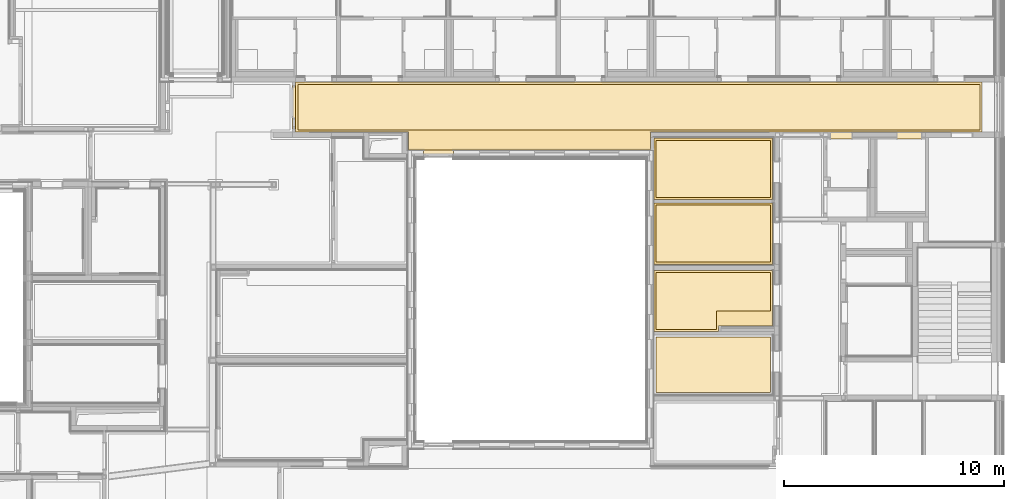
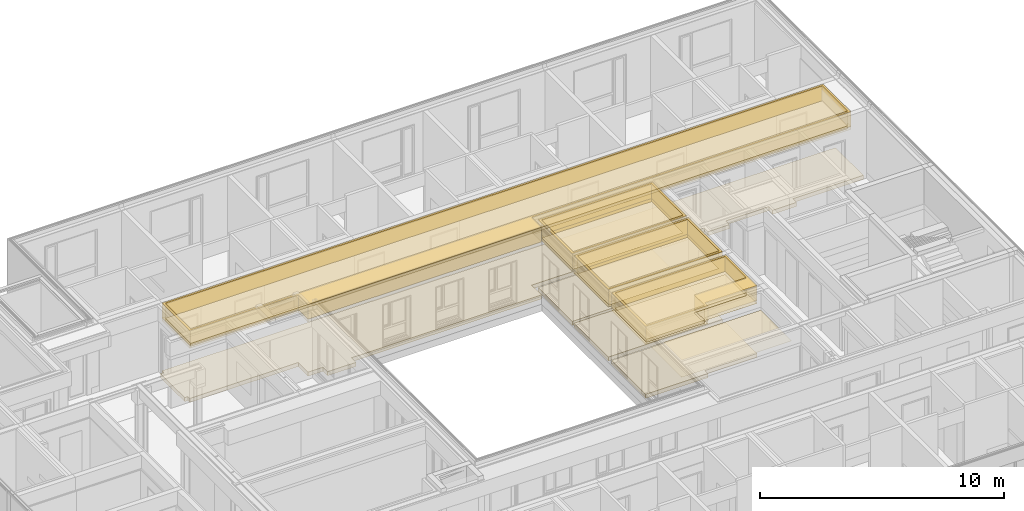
# One storey, part 184 of 207: 36 coverings.
"""IFC4 building model written with IfcOpenShell, lengths in metres."""

from ifc_helpers import new_model, entity, si_unit, converted_unit, derived_unit, frame, frame_2d, origin, origin_with_axes, place, context, subcontext, project, spatial, polyline, rectangle, outline, extrude, material, layer, layer_set, layer_usage, element, save


model = new_model("IFC4")

# Units and contexts
model_context = context("Model", 3, precision=1e-05, world=origin())
body_context = subcontext(model_context, "Body", "Model", "MODEL_VIEW")
ifc_project = project(units=[si_unit("LENGTHUNIT", "METRE"), si_unit("AREAUNIT", "SQUARE_METRE"), si_unit("VOLUMEUNIT", "CUBIC_METRE"), si_unit("MASSUNIT", "GRAM", prefix="KILO"), converted_unit("PLANEANGLEUNIT", "DEGREE", entity("IfcPlaneAngleMeasure", 0.0174532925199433), si_unit("PLANEANGLEUNIT", "RADIAN"), dimensions=[0, 0, 0, 0, 0, 0, 0]), derived_unit("THERMALTRANSMITTANCEUNIT", [(si_unit("POWERUNIT", "WATT"), 1), (si_unit("THERMODYNAMICTEMPERATUREUNIT", "KELVIN"), -1), (si_unit("LENGTHUNIT", "METRE"), -2)]), derived_unit("VOLUMETRICFLOWRATEUNIT", [(si_unit("LENGTHUNIT", "METRE"), 3), (converted_unit("TIMEUNIT", "hour", entity("IfcTimeMeasure", 3600.0), si_unit("TIMEUNIT", "SECOND"), dimensions=[0, 0, 1, 0, 0, 0, 0]), -1), (si_unit("LENGTHUNIT", "METRE"), -1)])], contexts=[model_context])

# Site, building, storey, space
site_placement = place(None, origin())
site = spatial("IfcSite", under=ifc_project, at=site_placement, Name="Psychiatrie Neubau Wunstorf", CompositionType="ELEMENT")
building_placement = place(site_placement, origin())
building = spatial("IfcBuilding", under=site, at=building_placement, Name="Neubau H2 Stationsgebäude", CompositionType="ELEMENT")
storey_placement = place(building_placement, frame((0.0, 0.0, -0.2)))
storey = spatial("IfcBuildingStorey", under=building, at=storey_placement, Name="H2 Ebene 0", CompositionType="ELEMENT", Elevation=-0.2)
space_1_placement = place(storey_placement, frame((74.055, 22.036, 0.0)))
space_1 = spatial("IfcSpace", under=storey, at=space_1_placement, Name="WUN-H2-E00-F09", CompositionType="ELEMENT")

# Coverings
ifc_material_1 = material(Name="Ku1")
ifc_layer_1 = layer(ifc_material_1, 0.2)
ifc_layer_set_1 = layer_set([ifc_layer_1])
ifc_layer_usage_1 = layer_usage(ifc_layer_set_1, "AXIS3", "POSITIVE", 0.0)
covering_1_placement = place(space_1_placement, frame((-0.154999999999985, -0.372000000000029, 0.0)))
element("IfcCovering", 1, at=covering_1_placement, inside=space_1, material=ifc_layer_usage_1, Name="PVC Bahnenware Holzoptik", PredefinedType="FLOORING", context=body_context, shape_type="SweptSolid", body=[
    extrude(rectangle(XDim=0.372000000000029, YDim=1.35, at=frame_2d((0.675, -0.186000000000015), x_axis=(0.0, -1.0))), frame((5.98099999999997, 0.372000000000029, 0.0), z_axis=(0.0, 0.0, 1.0), x_axis=(1.0, 0.0, 0.0)), (0.0, 0.0, 1.0), 0.2),
    extrude(rectangle(XDim=0.155, YDim=1.9715, at=frame_2d((0.0775, 0.98575), x_axis=(1.0, 0.0))), frame((0.0, 1.32700000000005, 0.0), z_axis=(0.0, 0.0, 1.0), x_axis=(1.0, 0.0, 0.0)), (0.0, 0.0, 1.0), 0.2),
    extrude(rectangle(XDim=0.306999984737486, YDim=1.01, at=frame_2d((0.505, -0.153499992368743), x_axis=(0.0, -1.0))), frame((24.4750062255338, 1.172, 0.0), z_axis=(0.0, 0.0, 1.0), x_axis=(1.0, 0.0, 0.0)), (0.0, 0.0, 1.0), 0.2),
    extrude(rectangle(XDim=0.306999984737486, YDim=1.135, at=frame_2d((0.5675, -0.153499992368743), x_axis=(0.0, -1.0))), frame((27.514993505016, 1.172, 0.0), z_axis=(0.0, 0.0, 1.0), x_axis=(1.0, 0.0, 0.0)), (0.0, 0.0, 1.0), 0.2),
    extrude(rectangle(XDim=0.155, YDim=1.6825, at=frame_2d((-0.84125, 0.0775), x_axis=(0.0, 1.0))), frame((24.01999991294, 1.017, 0.0), z_axis=(0.0, 0.0, 1.0), x_axis=(1.0, 0.0, 0.0)), (0.0, 0.0, 1.0), 0.2),
    extrude(outline(polyline([(5.1249996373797, 0.800000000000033), (5.1249996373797, 0.0), (16.156, 0.0), (16.156, 0.799999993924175), (31.834, 0.799999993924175), (31.834, 3.08150000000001), (0.0, 3.08150000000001), (0.0, 0.800000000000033), (5.1249996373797, 0.800000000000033)])), frame((0.154999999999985, 0.372000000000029, 0.0), z_axis=(0.0, 0.0, 1.0), x_axis=(1.0, 0.0, 0.0)), (0.0, 0.0, 1.0), 0.2),
])
ifc_material_2 = material()
ifc_layer_2 = layer(ifc_material_2, 0.036)
ifc_layer_set_2 = layer_set([ifc_layer_2])
ifc_layer_usage_2 = layer_usage(ifc_layer_set_2, "AXIS3", "POSITIVE", 0.0)
covering_2_placement = place(space_1_placement, frame((0.100000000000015, 0.899999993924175, 3.6)))
element("IfcCovering", 2, at=covering_2_placement, inside=space_1, material=ifc_layer_usage_2, Name="Gipsfaserplatten 2-lagig (BSK)", PredefinedType="CEILING", context=body_context, shape_type="SweptSolid", body=[
    extrude(rectangle(XDim=2.08150000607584, YDim=31.045, at=frame_2d((-15.5225, 1.04074999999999), x_axis=(0.0, 1.0))), frame((31.045, 2.08150000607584, 0.0), z_axis=(0.0, 0.0, -1.0), x_axis=(1.0, 0.0, 0.0)), (0.0, 0.0, 1.0), 0.036),
])
ifc_material_3 = material(Name="Installationshöhe")
ifc_layer_3 = layer(ifc_material_3, 0.714)
ifc_layer_set_3 = layer_set([ifc_layer_3])
ifc_layer_usage_3 = layer_usage(ifc_layer_set_3, "AXIS3", "POSITIVE", 0.0)
covering_3_placement = place(space_1_placement, frame((0.100000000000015, 0.899999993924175, 3.564)))
element("IfcCovering", 3, at=covering_3_placement, inside=space_1, material=ifc_layer_usage_3, Name="Gipsfaserplatten 2-lagig (BSK)", PredefinedType="CEILING", context=body_context, shape_type="SweptSolid", body=[
    extrude(rectangle(XDim=2.08150000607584, YDim=31.045, at=frame_2d((-15.5225, 1.04074999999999), x_axis=(0.0, 1.0))), frame((31.045, 2.08150000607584, 0.0), z_axis=(0.0, 0.0, -1.0), x_axis=(1.0, 0.0, 0.0)), (0.0, 0.0, 1.0), 0.714),
])
ifc_material_4 = material(Name="Aa")
ifc_layer_4 = layer(ifc_material_4, 0.15)
ifc_layer_set_4 = layer_set([ifc_layer_4])
ifc_layer_usage_4 = layer_usage(ifc_layer_set_4, "AXIS3", "POSITIVE", 0.0)
covering_4_placement = place(space_1_placement, frame((0.100000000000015, 0.899999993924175, 2.85)))
element("IfcCovering", 4, at=covering_4_placement, inside=space_1, material=ifc_layer_usage_4, Name="Gipsfaserplatten 2-lagig (BSK)", PredefinedType="CEILING", context=body_context, shape_type="SweptSolid", body=[
    extrude(rectangle(XDim=2.08150000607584, YDim=31.045, at=frame_2d((-15.5225, 1.04074999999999), x_axis=(0.0, 1.0))), frame((31.045, 2.08150000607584, 0.0), z_axis=(0.0, 0.0, -1.0), x_axis=(1.0, 0.0, 0.0)), (0.0, 0.0, 1.0), 0.15),
])
ifc_material_5 = material(Name="D1")
ifc_layer_5 = layer(ifc_material_5, 0.001)
ifc_layer_set_5 = layer_set([ifc_layer_5])
ifc_layer_usage_5 = layer_usage(ifc_layer_set_5, "AXIS3", "POSITIVE", 0.0)
covering_5_placement = place(space_1_placement, frame((0.100000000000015, 0.899999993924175, 2.7)))
element("IfcCovering", 5, at=covering_5_placement, inside=space_1, material=ifc_layer_usage_5, Name="Gipsfaserplatten 2-lagig (BSK)", PredefinedType="CEILING", context=body_context, shape_type="SweptSolid", body=[
    extrude(rectangle(XDim=2.08150000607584, YDim=31.045, at=frame_2d((-15.5225, 1.04074999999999), x_axis=(0.0, 1.0))), frame((31.045, 2.08150000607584, 0.0), z_axis=(0.0, 0.0, -1.0), x_axis=(1.0, 0.0, 0.0)), (0.0, 0.0, 1.0), 0.001),
])
ifc_material_6 = material()
ifc_layer_6 = layer(ifc_material_6, 0.036)
ifc_layer_set_6 = layer_set([ifc_layer_6])
ifc_layer_usage_6 = layer_usage(ifc_layer_set_6, "AXIS3", "POSITIVE", 0.0)
covering_6_placement = place(space_1_placement, frame((0.0, 0.0, 3.6)))
element("IfcCovering", 6, at=covering_6_placement, inside=space_1, material=ifc_layer_usage_6, Name="Gipsfaserplatten 2-lagig (BSK)", PredefinedType="CEILING", context=body_context, shape_type="SweptSolid", body=[
    extrude(outline(polyline([(31.245, 2.28150000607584), (16.156, 2.28150000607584), (16.156, 3.08150000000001), (5.1249996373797, 3.08150000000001), (5.1249996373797, 2.28150000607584), (0.0, 2.28150000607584), (0.0, 0.0), (31.245, 0.0), (31.245, 2.28150000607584)]), holes=[polyline([(0.1, 0.1), (0.1, 2.18150000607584), (31.145, 2.18150000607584), (31.145, 0.1), (0.1, 0.1)])]), frame((0.0, 3.08150000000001, 0.0), z_axis=(0.0, 0.0, -1.0), x_axis=(1.0, 0.0, 0.0)), (0.0, 0.0, 1.0), 0.036),
])
ifc_material_7 = material(Name="Installationshöhe")
ifc_layer_7 = layer(ifc_material_7, 0.714)
ifc_layer_set_7 = layer_set([ifc_layer_7])
ifc_layer_usage_7 = layer_usage(ifc_layer_set_7, "AXIS3", "POSITIVE", 0.0)
covering_7_placement = place(space_1_placement, frame((0.0, 0.0, 3.564)))
element("IfcCovering", 7, at=covering_7_placement, inside=space_1, material=ifc_layer_usage_7, Name="Gipsfaserplatten 2-lagig (BSK)", PredefinedType="CEILING", context=body_context, shape_type="SweptSolid", body=[
    extrude(outline(polyline([(31.245, 2.28150000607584), (16.156, 2.28150000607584), (16.156, 3.08150000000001), (5.1249996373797, 3.08150000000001), (5.1249996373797, 2.28150000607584), (0.0, 2.28150000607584), (0.0, 0.0), (31.245, 0.0), (31.245, 2.28150000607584)]), holes=[polyline([(0.1, 0.1), (0.1, 2.18150000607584), (31.145, 2.18150000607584), (31.145, 0.1), (0.1, 0.1)])]), frame((0.0, 3.08150000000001, 0.0), z_axis=(0.0, 0.0, -1.0), x_axis=(1.0, 0.0, 0.0)), (0.0, 0.0, 1.0), 0.714),
])
ifc_material_8 = material(Name="A1")
ifc_layer_8 = layer(ifc_material_8, 0.15)
ifc_layer_set_8 = layer_set([ifc_layer_8])
ifc_layer_usage_8 = layer_usage(ifc_layer_set_8, "AXIS3", "POSITIVE", 0.0)
covering_8_placement = place(space_1_placement, frame((0.0, 0.0, 2.85)))
element("IfcCovering", 8, at=covering_8_placement, inside=space_1, material=ifc_layer_usage_8, Name="Gipsfaserplatten 2-lagig (BSK)", PredefinedType="CEILING", context=body_context, shape_type="SweptSolid", body=[
    extrude(outline(polyline([(31.245, 2.28150000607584), (16.156, 2.28150000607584), (16.156, 3.08150000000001), (5.1249996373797, 3.08150000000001), (5.1249996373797, 2.28150000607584), (0.0, 2.28150000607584), (0.0, 0.0), (31.245, 0.0), (31.245, 2.28150000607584)]), holes=[polyline([(0.1, 0.1), (0.1, 2.18150000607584), (31.145, 2.18150000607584), (31.145, 0.1), (0.1, 0.1)])]), frame((0.0, 3.08150000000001, 0.0), z_axis=(0.0, 0.0, -1.0), x_axis=(1.0, 0.0, 0.0)), (0.0, 0.0, 1.0), 0.15),
])
ifc_material_9 = material(Name="D1")
ifc_layer_9 = layer(ifc_material_9, 0.001)
ifc_layer_set_9 = layer_set([ifc_layer_9])
ifc_layer_usage_9 = layer_usage(ifc_layer_set_9, "AXIS3", "POSITIVE", 0.0)
covering_9_placement = place(space_1_placement, frame((0.0, 0.0, 2.7)))
element("IfcCovering", 9, at=covering_9_placement, inside=space_1, material=ifc_layer_usage_9, Name="Gipsfaserplatten 2-lagig (BSK)", PredefinedType="CEILING", context=body_context, shape_type="SweptSolid", body=[
    extrude(outline(polyline([(31.245, 2.28150000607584), (16.156, 2.28150000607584), (16.156, 3.08150000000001), (5.1249996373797, 3.08150000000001), (5.1249996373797, 2.28150000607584), (0.0, 2.28150000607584), (0.0, 0.0), (31.245, 0.0), (31.245, 2.28150000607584)]), holes=[polyline([(0.1, 0.1), (0.1, 2.18150000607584), (31.145, 2.18150000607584), (31.145, 0.1), (0.1, 0.1)])]), frame((0.0, 3.08150000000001, 0.0), z_axis=(0.0, 0.0, -1.0), x_axis=(1.0, 0.0, 0.0)), (0.0, 0.0, 1.0), 0.001),
])

# Space
space_2_placement = place(storey_placement, frame((90.3575, 19.768, 0.0)))
space_2 = spatial("IfcSpace", under=storey, at=space_2_placement, Name="WUN-H2-E00-086", CompositionType="ELEMENT")

# Coverings
ifc_material_10 = material(Name="Ku1")
ifc_layer_10 = layer(ifc_material_10, 0.2)
ifc_layer_set_10 = layer_set([ifc_layer_10])
ifc_layer_usage_10 = layer_usage(ifc_layer_set_10, "AXIS3", "POSITIVE", 0.0)
covering_10_placement = place(space_2_placement, origin())
element("IfcCovering", 10, at=covering_10_placement, inside=space_2, material=ifc_layer_usage_10, Name="PVC Bahnenware Holzoptik", PredefinedType="FLOORING", context=body_context, shape_type="SweptSolid", body=[
    extrude(outline(polyline([(5.4035, 0.0), (5.4035, 2.79600000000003), (0.0, 2.79600000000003), (0.0, 2.26800000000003), (0.0035, 2.26800000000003), (0.0035, 0.0), (5.4035, 0.0)])), origin_with_axes(), (0.0, 0.0, 1.0), 0.2),
])
ifc_material_11 = material()
ifc_layer_11 = layer(ifc_material_11, 0.036)
ifc_layer_set_11 = layer_set([ifc_layer_11])
ifc_layer_usage_11 = layer_usage(ifc_layer_set_11, "AXIS3", "POSITIVE", 0.0)
covering_11_placement = place(space_2_placement, frame((0.103499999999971, 0.100000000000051, 3.6)))
element("IfcCovering", 11, at=covering_11_placement, inside=space_2, material=ifc_layer_usage_11, Name="Gipsfaserplatten 2-lagig (BSK)", PredefinedType="CEILING", context=body_context, shape_type="SweptSolid", body=[
    extrude(rectangle(XDim=5.19999997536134, YDim=2.59599999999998, at=frame_2d((-2.59999998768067, -1.29800000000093), x_axis=(-1.0, -3.61699048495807e-13))), frame((5.19999997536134, 0.0, 0.0), z_axis=(0.0, 0.0, -1.0), x_axis=(1.0, 0.0, 0.0)), (0.0, 0.0, 1.0), 0.036),
])
ifc_material_12 = material(Name="Installationshöhe")
ifc_layer_12 = layer(ifc_material_12, 0.714)
ifc_layer_set_12 = layer_set([ifc_layer_12])
ifc_layer_usage_12 = layer_usage(ifc_layer_set_12, "AXIS3", "POSITIVE", 0.0)
covering_12_placement = place(space_2_placement, frame((0.103499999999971, 0.100000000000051, 3.564)))
element("IfcCovering", 12, at=covering_12_placement, inside=space_2, material=ifc_layer_usage_12, Name="Gipsfaserplatten 2-lagig (BSK)", PredefinedType="CEILING", context=body_context, shape_type="SweptSolid", body=[
    extrude(rectangle(XDim=5.19999997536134, YDim=2.59599999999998, at=frame_2d((-2.59999998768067, -1.29800000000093), x_axis=(-1.0, -3.61699048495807e-13))), frame((5.19999997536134, 0.0, 0.0), z_axis=(0.0, 0.0, -1.0), x_axis=(1.0, 0.0, 0.0)), (0.0, 0.0, 1.0), 0.714),
])
ifc_material_13 = material(Name="Aa")
ifc_layer_13 = layer(ifc_material_13, 0.15)
ifc_layer_set_13 = layer_set([ifc_layer_13])
ifc_layer_usage_13 = layer_usage(ifc_layer_set_13, "AXIS3", "POSITIVE", 0.0)
covering_13_placement = place(space_2_placement, frame((0.103499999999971, 0.100000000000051, 2.85)))
element("IfcCovering", 13, at=covering_13_placement, inside=space_2, material=ifc_layer_usage_13, Name="Gipsfaserplatten 2-lagig (BSK)", PredefinedType="CEILING", context=body_context, shape_type="SweptSolid", body=[
    extrude(rectangle(XDim=5.19999997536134, YDim=2.59599999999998, at=frame_2d((-2.59999998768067, -1.29800000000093), x_axis=(-1.0, -3.61699048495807e-13))), frame((5.19999997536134, 0.0, 0.0), z_axis=(0.0, 0.0, -1.0), x_axis=(1.0, 0.0, 0.0)), (0.0, 0.0, 1.0), 0.15),
])
ifc_material_14 = material(Name="D1")
ifc_layer_14 = layer(ifc_material_14, 0.001)
ifc_layer_set_14 = layer_set([ifc_layer_14])
ifc_layer_usage_14 = layer_usage(ifc_layer_set_14, "AXIS3", "POSITIVE", 0.0)
covering_14_placement = place(space_2_placement, frame((0.103499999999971, 0.100000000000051, 2.7)))
element("IfcCovering", 14, at=covering_14_placement, inside=space_2, material=ifc_layer_usage_14, Name="Gipsfaserplatten 2-lagig (BSK)", PredefinedType="CEILING", context=body_context, shape_type="SweptSolid", body=[
    extrude(rectangle(XDim=5.19999997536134, YDim=2.59599999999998, at=frame_2d((-2.59999998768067, -1.29800000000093), x_axis=(-1.0, -3.61699048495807e-13))), frame((5.19999997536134, 0.0, 0.0), z_axis=(0.0, 0.0, -1.0), x_axis=(1.0, 0.0, 0.0)), (0.0, 0.0, 1.0), 0.001),
])
ifc_material_15 = material()
ifc_layer_15 = layer(ifc_material_15, 0.036)
ifc_layer_set_15 = layer_set([ifc_layer_15])
ifc_layer_usage_15 = layer_usage(ifc_layer_set_15, "AXIS3", "POSITIVE", 0.0)
covering_15_placement = place(space_2_placement, frame((0.0035, 0.0, 3.6)))
element("IfcCovering", 15, at=covering_15_placement, inside=space_2, material=ifc_layer_usage_15, Name="Gipsfaserplatten 2-lagig (BSK)", PredefinedType="CEILING", context=body_context, shape_type="SweptSolid", body=[
    extrude(outline(polyline([(0.0, 0.0), (5.4, 0.0), (5.4, 2.79600000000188), (0.0, 2.79600000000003), (0.0, 0.0)]), holes=[polyline([(0.0999999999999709, 2.69599999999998), (5.29999997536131, 2.69600000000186), (5.29999997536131, 0.100000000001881), (0.0999999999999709, 0.1), (0.0999999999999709, 2.69599999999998)])]), frame((0.0, 2.79600000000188, 0.0), z_axis=(0.0, 0.0, -1.0), x_axis=(1.0, 0.0, 0.0)), (0.0, 0.0, 1.0), 0.036),
])
ifc_material_16 = material(Name="Installationshöhe")
ifc_layer_16 = layer(ifc_material_16, 0.714)
ifc_layer_set_16 = layer_set([ifc_layer_16])
ifc_layer_usage_16 = layer_usage(ifc_layer_set_16, "AXIS3", "POSITIVE", 0.0)
covering_16_placement = place(space_2_placement, frame((0.0035, 0.0, 3.564)))
element("IfcCovering", 16, at=covering_16_placement, inside=space_2, material=ifc_layer_usage_16, Name="Gipsfaserplatten 2-lagig (BSK)", PredefinedType="CEILING", context=body_context, shape_type="SweptSolid", body=[
    extrude(outline(polyline([(0.0, 0.0), (5.4, 0.0), (5.4, 2.79600000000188), (0.0, 2.79600000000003), (0.0, 0.0)]), holes=[polyline([(0.0999999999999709, 2.69599999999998), (5.29999997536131, 2.69600000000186), (5.29999997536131, 0.100000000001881), (0.0999999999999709, 0.1), (0.0999999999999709, 2.69599999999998)])]), frame((0.0, 2.79600000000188, 0.0), z_axis=(0.0, 0.0, -1.0), x_axis=(1.0, 0.0, 0.0)), (0.0, 0.0, 1.0), 0.714),
])
ifc_material_17 = material(Name="A1")
ifc_layer_17 = layer(ifc_material_17, 0.15)
ifc_layer_set_17 = layer_set([ifc_layer_17])
ifc_layer_usage_17 = layer_usage(ifc_layer_set_17, "AXIS3", "POSITIVE", 0.0)
covering_17_placement = place(space_2_placement, frame((0.0035, 0.0, 2.85)))
element("IfcCovering", 17, at=covering_17_placement, inside=space_2, material=ifc_layer_usage_17, Name="Gipsfaserplatten 2-lagig (BSK)", PredefinedType="CEILING", context=body_context, shape_type="SweptSolid", body=[
    extrude(outline(polyline([(0.0, 0.0), (5.4, 0.0), (5.4, 2.79600000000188), (0.0, 2.79600000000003), (0.0, 0.0)]), holes=[polyline([(0.0999999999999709, 2.69599999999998), (5.29999997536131, 2.69600000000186), (5.29999997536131, 0.100000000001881), (0.0999999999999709, 0.1), (0.0999999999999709, 2.69599999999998)])]), frame((0.0, 2.79600000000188, 0.0), z_axis=(0.0, 0.0, -1.0), x_axis=(1.0, 0.0, 0.0)), (0.0, 0.0, 1.0), 0.15),
])

# Space
space_3_placement = place(storey_placement, frame((90.361, 16.8255, 0.0)))
space_3 = spatial("IfcSpace", under=storey, at=space_3_placement, Name="WUN-H2-E00-085", CompositionType="ELEMENT")

# Coverings
ifc_material_18 = material(Name="Ku1")
ifc_layer_18 = layer(ifc_material_18, 0.2)
ifc_layer_set_18 = layer_set([ifc_layer_18])
ifc_layer_usage_18 = layer_usage(ifc_layer_set_18, "AXIS3", "POSITIVE", 0.0)
covering_18_placement = place(space_3_placement, origin())
element("IfcCovering", 18, at=covering_18_placement, inside=space_3, material=ifc_layer_usage_18, Name="PVC Bahnenware Holzoptik", PredefinedType="FLOORING", context=body_context, shape_type="SweptSolid", body=[
    extrude(rectangle(XDim=5.4, YDim=2.79249999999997, at=frame_2d((-2.7, -1.39625), x_axis=(-1.0, -5.38959823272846e-15))), frame((5.4, 2.7925, 0.0), z_axis=(0.0, 0.0, 1.0), x_axis=(1.0, 0.0, 0.0)), (0.0, 0.0, 1.0), 0.2),
])
ifc_material_19 = material()
ifc_layer_19 = layer(ifc_material_19, 0.036)
ifc_layer_set_19 = layer_set([ifc_layer_19])
ifc_layer_usage_19 = layer_usage(ifc_layer_set_19, "AXIS3", "POSITIVE", 0.0)
covering_19_placement = place(space_3_placement, frame((0.0999999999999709, 0.100000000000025, 3.6)))
element("IfcCovering", 19, at=covering_19_placement, inside=space_3, material=ifc_layer_usage_19, Name="Gipsfaserplatten 2-lagig (BSK)", PredefinedType="CEILING", context=body_context, shape_type="SweptSolid", body=[
    extrude(rectangle(XDim=2.5925, YDim=5.19999997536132, at=frame_2d((2.59999998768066, -1.29624999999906), x_axis=(0.0, -1.0))), frame((0.0, 0.0, 0.0), z_axis=(0.0, 0.0, -1.0), x_axis=(1.0, 0.0, 0.0)), (0.0, 0.0, 1.0), 0.036),
])
ifc_material_20 = material(Name="Installationshöhe")
ifc_layer_20 = layer(ifc_material_20, 0.714)
ifc_layer_set_20 = layer_set([ifc_layer_20])
ifc_layer_usage_20 = layer_usage(ifc_layer_set_20, "AXIS3", "POSITIVE", 0.0)
covering_20_placement = place(space_3_placement, frame((0.0999999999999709, 0.100000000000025, 3.564)))
element("IfcCovering", 20, at=covering_20_placement, inside=space_3, material=ifc_layer_usage_20, Name="Gipsfaserplatten 2-lagig (BSK)", PredefinedType="CEILING", context=body_context, shape_type="SweptSolid", body=[
    extrude(rectangle(XDim=2.5925, YDim=5.19999997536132, at=frame_2d((2.59999998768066, -1.29624999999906), x_axis=(0.0, -1.0))), frame((0.0, 0.0, 0.0), z_axis=(0.0, 0.0, -1.0), x_axis=(1.0, 0.0, 0.0)), (0.0, 0.0, 1.0), 0.714),
])
ifc_material_21 = material(Name="Aa")
ifc_layer_21 = layer(ifc_material_21, 0.15)
ifc_layer_set_21 = layer_set([ifc_layer_21])
ifc_layer_usage_21 = layer_usage(ifc_layer_set_21, "AXIS3", "POSITIVE", 0.0)
covering_21_placement = place(space_3_placement, frame((0.0999999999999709, 0.100000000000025, 2.85)))
element("IfcCovering", 21, at=covering_21_placement, inside=space_3, material=ifc_layer_usage_21, Name="Gipsfaserplatten 2-lagig (BSK)", PredefinedType="CEILING", context=body_context, shape_type="SweptSolid", body=[
    extrude(rectangle(XDim=2.5925, YDim=5.19999997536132, at=frame_2d((2.59999998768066, -1.29624999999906), x_axis=(0.0, -1.0))), frame((0.0, 0.0, 0.0), z_axis=(0.0, 0.0, -1.0), x_axis=(1.0, 0.0, 0.0)), (0.0, 0.0, 1.0), 0.15),
])
ifc_material_22 = material(Name="D1")
ifc_layer_22 = layer(ifc_material_22, 0.001)
ifc_layer_set_22 = layer_set([ifc_layer_22])
ifc_layer_usage_22 = layer_usage(ifc_layer_set_22, "AXIS3", "POSITIVE", 0.0)
covering_22_placement = place(space_3_placement, frame((0.0999999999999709, 0.100000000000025, 2.7)))
element("IfcCovering", 22, at=covering_22_placement, inside=space_3, material=ifc_layer_usage_22, Name="Gipsfaserplatten 2-lagig (BSK)", PredefinedType="CEILING", context=body_context, shape_type="SweptSolid", body=[
    extrude(rectangle(XDim=2.5925, YDim=5.19999997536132, at=frame_2d((2.59999998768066, -1.29624999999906), x_axis=(0.0, -1.0))), frame((0.0, 0.0, 0.0), z_axis=(0.0, 0.0, -1.0), x_axis=(1.0, 0.0, 0.0)), (0.0, 0.0, 1.0), 0.001),
])
ifc_material_23 = material()
ifc_layer_23 = layer(ifc_material_23, 0.036)
ifc_layer_set_23 = layer_set([ifc_layer_23])
ifc_layer_usage_23 = layer_usage(ifc_layer_set_23, "AXIS3", "POSITIVE", 0.0)
covering_23_placement = place(space_3_placement, frame((0.0, 0.0, 3.6)))
element("IfcCovering", 23, at=covering_23_placement, inside=space_3, material=ifc_layer_usage_23, Name="Gipsfaserplatten 2-lagig (BSK)", PredefinedType="CEILING", context=body_context, shape_type="SweptSolid", body=[
    extrude(outline(polyline([(5.4, 2.79250000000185), (0.0, 2.79249999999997), (0.0, 0.0), (5.4, 0.0), (5.4, 2.79250000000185)]), holes=[polyline([(0.0999999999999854, 0.0999999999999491), (0.0999999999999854, 2.69249999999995), (5.29999997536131, 2.69250000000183), (5.29999997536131, 0.10000000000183), (0.0999999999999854, 0.0999999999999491)])]), frame((0.0, 2.79250000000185, 0.0), z_axis=(0.0, 0.0, -1.0), x_axis=(1.0, 0.0, 0.0)), (0.0, 0.0, 1.0), 0.036),
])
ifc_material_24 = material(Name="Installationshöhe")
ifc_layer_24 = layer(ifc_material_24, 0.714)
ifc_layer_set_24 = layer_set([ifc_layer_24])
ifc_layer_usage_24 = layer_usage(ifc_layer_set_24, "AXIS3", "POSITIVE", 0.0)
covering_24_placement = place(space_3_placement, frame((0.0, 0.0, 3.564)))
element("IfcCovering", 24, at=covering_24_placement, inside=space_3, material=ifc_layer_usage_24, Name="Gipsfaserplatten 2-lagig (BSK)", PredefinedType="CEILING", context=body_context, shape_type="SweptSolid", body=[
    extrude(outline(polyline([(5.4, 2.79250000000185), (0.0, 2.79249999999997), (0.0, 0.0), (5.4, 0.0), (5.4, 2.79250000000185)]), holes=[polyline([(0.0999999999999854, 0.0999999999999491), (0.0999999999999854, 2.69249999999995), (5.29999997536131, 2.69250000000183), (5.29999997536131, 0.10000000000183), (0.0999999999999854, 0.0999999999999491)])]), frame((0.0, 2.79250000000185, 0.0), z_axis=(0.0, 0.0, -1.0), x_axis=(1.0, 0.0, 0.0)), (0.0, 0.0, 1.0), 0.714),
])
ifc_material_25 = material(Name="A1")
ifc_layer_25 = layer(ifc_material_25, 0.15)
ifc_layer_set_25 = layer_set([ifc_layer_25])
ifc_layer_usage_25 = layer_usage(ifc_layer_set_25, "AXIS3", "POSITIVE", 0.0)
covering_25_placement = place(space_3_placement, frame((0.0, 0.0, 2.85)))
element("IfcCovering", 25, at=covering_25_placement, inside=space_3, material=ifc_layer_usage_25, Name="Gipsfaserplatten 2-lagig (BSK)", PredefinedType="CEILING", context=body_context, shape_type="SweptSolid", body=[
    extrude(outline(polyline([(5.4, 2.79250000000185), (0.0, 2.79249999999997), (0.0, 0.0), (5.4, 0.0), (5.4, 2.79250000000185)]), holes=[polyline([(0.0999999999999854, 0.0999999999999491), (0.0999999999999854, 2.69249999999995), (5.29999997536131, 2.69250000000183), (5.29999997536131, 0.10000000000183), (0.0999999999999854, 0.0999999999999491)])]), frame((0.0, 2.79250000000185, 0.0), z_axis=(0.0, 0.0, -1.0), x_axis=(1.0, 0.0, 0.0)), (0.0, 0.0, 1.0), 0.15),
])
ifc_material_26 = material(Name="D1")
ifc_layer_26 = layer(ifc_material_26, 0.001)
ifc_layer_set_26 = layer_set([ifc_layer_26])
ifc_layer_usage_26 = layer_usage(ifc_layer_set_26, "AXIS3", "POSITIVE", 0.0)
covering_26_placement = place(space_3_placement, frame((0.0, 0.0, 2.7)))
element("IfcCovering", 26, at=covering_26_placement, inside=space_3, material=ifc_layer_usage_26, Name="Gipsfaserplatten 2-lagig (BSK)", PredefinedType="CEILING", context=body_context, shape_type="SweptSolid", body=[
    extrude(outline(polyline([(5.4, 2.79250000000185), (0.0, 2.79249999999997), (0.0, 0.0), (5.4, 0.0), (5.4, 2.79250000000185)]), holes=[polyline([(0.0999999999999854, 0.0999999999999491), (0.0999999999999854, 2.69249999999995), (5.29999997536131, 2.69250000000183), (5.29999997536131, 0.10000000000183), (0.0999999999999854, 0.0999999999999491)])]), frame((0.0, 2.79250000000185, 0.0), z_axis=(0.0, 0.0, -1.0), x_axis=(1.0, 0.0, 0.0)), (0.0, 0.0, 1.0), 0.001),
])

# Space
space_4_placement = place(storey_placement, frame((90.361, 13.7609999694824, 0.0)))
space_4 = spatial("IfcSpace", under=storey, at=space_4_placement, Name="WUN-H2-E00-084", CompositionType="ELEMENT")

# Coverings
ifc_material_27 = material(Name="Ku1")
ifc_layer_27 = layer(ifc_material_27, 0.2)
ifc_layer_set_27 = layer_set([ifc_layer_27])
ifc_layer_usage_27 = layer_usage(ifc_layer_set_27, "AXIS3", "POSITIVE", 0.0)
covering_27_placement = place(space_4_placement, origin())
element("IfcCovering", 27, at=covering_27_placement, inside=space_4, material=ifc_layer_usage_27, Name="PVC Bahnenware Holzoptik", PredefinedType="FLOORING", context=body_context, shape_type="SweptSolid", body=[
    extrude(outline(polyline([(5.4, 0.249999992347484), (5.4, 2.79250003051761), (0.0, 2.79250003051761), (0.0, 0.0), (2.94249990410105, 0.0), (2.94249990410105, 0.249999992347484), (5.4, 0.249999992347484)])), origin_with_axes(), (0.0, 0.0, 1.0), 0.2),
])
ifc_material_28 = material()
ifc_layer_28 = layer(ifc_material_28, 0.036)
ifc_layer_set_28 = layer_set([ifc_layer_28])
ifc_layer_usage_28 = layer_usage(ifc_layer_set_28, "AXIS3", "POSITIVE", 0.0)
covering_28_placement = place(space_4_placement, frame((0.0999999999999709, 0.100000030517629, 3.6)))
element("IfcCovering", 28, at=covering_28_placement, inside=space_4, material=ifc_layer_usage_28, Name="Gipsfaserplatten 2-lagig (BSK)", PredefinedType="CEILING", context=body_context, shape_type="SweptSolid", body=[
    extrude(outline(polyline([(0.0, 2.5925), (0.0, 0.0), (5.19999997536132, 0.0), (5.19999997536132, 1.74250026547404), (2.74249990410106, 1.74250026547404), (2.74249990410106, 2.59250003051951), (0.0, 2.5925)])), frame((0.0, 2.59250003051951, 0.0), z_axis=(0.0, 0.0, -1.0), x_axis=(1.0, 0.0, 0.0)), (0.0, 0.0, 1.0), 0.036),
])
ifc_material_29 = material(Name="Installationshöhe")
ifc_layer_29 = layer(ifc_material_29, 0.714)
ifc_layer_set_29 = layer_set([ifc_layer_29])
ifc_layer_usage_29 = layer_usage(ifc_layer_set_29, "AXIS3", "POSITIVE", 0.0)
covering_29_placement = place(space_4_placement, frame((0.0999999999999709, 0.100000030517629, 3.564)))
element("IfcCovering", 29, at=covering_29_placement, inside=space_4, material=ifc_layer_usage_29, Name="Gipsfaserplatten 2-lagig (BSK)", PredefinedType="CEILING", context=body_context, shape_type="SweptSolid", body=[
    extrude(outline(polyline([(0.0, 2.5925), (0.0, 0.0), (5.19999997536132, 0.0), (5.19999997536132, 1.74250026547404), (2.74249990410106, 1.74250026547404), (2.74249990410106, 2.59250003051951), (0.0, 2.5925)])), frame((0.0, 2.59250003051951, 0.0), z_axis=(0.0, 0.0, -1.0), x_axis=(1.0, 0.0, 0.0)), (0.0, 0.0, 1.0), 0.714),
])
ifc_material_30 = material(Name="Aa")
ifc_layer_30 = layer(ifc_material_30, 0.15)
ifc_layer_set_30 = layer_set([ifc_layer_30])
ifc_layer_usage_30 = layer_usage(ifc_layer_set_30, "AXIS3", "POSITIVE", 0.0)
covering_30_placement = place(space_4_placement, frame((0.0999999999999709, 0.100000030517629, 2.85)))
element("IfcCovering", 30, at=covering_30_placement, inside=space_4, material=ifc_layer_usage_30, Name="Gipsfaserplatten 2-lagig (BSK)", PredefinedType="CEILING", context=body_context, shape_type="SweptSolid", body=[
    extrude(outline(polyline([(0.0, 2.5925), (0.0, 0.0), (5.19999997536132, 0.0), (5.19999997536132, 1.74250026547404), (2.74249990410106, 1.74250026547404), (2.74249990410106, 2.59250003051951), (0.0, 2.5925)])), frame((0.0, 2.59250003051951, 0.0), z_axis=(0.0, 0.0, -1.0), x_axis=(1.0, 0.0, 0.0)), (0.0, 0.0, 1.0), 0.15),
])
ifc_material_31 = material(Name="D1")
ifc_layer_31 = layer(ifc_material_31, 0.001)
ifc_layer_set_31 = layer_set([ifc_layer_31])
ifc_layer_usage_31 = layer_usage(ifc_layer_set_31, "AXIS3", "POSITIVE", 0.0)
covering_31_placement = place(space_4_placement, frame((0.0999999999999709, 0.100000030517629, 2.7)))
element("IfcCovering", 31, at=covering_31_placement, inside=space_4, material=ifc_layer_usage_31, Name="Gipsfaserplatten 2-lagig (BSK)", PredefinedType="CEILING", context=body_context, shape_type="SweptSolid", body=[
    extrude(outline(polyline([(0.0, 2.5925), (0.0, 0.0), (5.19999997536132, 0.0), (5.19999997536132, 1.74250026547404), (2.74249990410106, 1.74250026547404), (2.74249990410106, 2.59250003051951), (0.0, 2.5925)])), frame((0.0, 2.59250003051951, 0.0), z_axis=(0.0, 0.0, -1.0), x_axis=(1.0, 0.0, 0.0)), (0.0, 0.0, 1.0), 0.001),
])
ifc_material_32 = material()
ifc_layer_32 = layer(ifc_material_32, 0.036)
ifc_layer_set_32 = layer_set([ifc_layer_32])
ifc_layer_usage_32 = layer_usage(ifc_layer_set_32, "AXIS3", "POSITIVE", 0.0)
covering_32_placement = place(space_4_placement, frame((0.0, 0.0, 3.6)))
element("IfcCovering", 32, at=covering_32_placement, inside=space_4, material=ifc_layer_usage_32, Name="Gipsfaserplatten 2-lagig (BSK)", PredefinedType="CEILING", context=body_context, shape_type="SweptSolid", body=[
    extrude(outline(polyline([(5.4, 0.0), (5.4, 2.54250003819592), (2.94249990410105, 2.542500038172), (2.94249990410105, 2.79250003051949), (0.0, 2.79250003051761), (0.0, 0.0), (5.4, 0.0)]), holes=[polyline([(5.29999997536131, 0.100000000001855), (0.0999999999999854, 0.0999999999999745), (0.0999999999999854, 2.69250003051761), (2.84249990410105, 2.69250003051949), (2.84249990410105, 1.84250023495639), (5.29999997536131, 1.84250023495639), (5.29999997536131, 0.100000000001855)])]), frame((0.0, 2.79250003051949, 0.0), z_axis=(0.0, 0.0, -1.0), x_axis=(1.0, 0.0, 0.0)), (0.0, 0.0, 1.0), 0.036),
])
ifc_material_33 = material(Name="Installationshöhe")
ifc_layer_33 = layer(ifc_material_33, 0.714)
ifc_layer_set_33 = layer_set([ifc_layer_33])
ifc_layer_usage_33 = layer_usage(ifc_layer_set_33, "AXIS3", "POSITIVE", 0.0)
covering_33_placement = place(space_4_placement, frame((0.0, 0.0, 3.564)))
element("IfcCovering", 33, at=covering_33_placement, inside=space_4, material=ifc_layer_usage_33, Name="Gipsfaserplatten 2-lagig (BSK)", PredefinedType="CEILING", context=body_context, shape_type="SweptSolid", body=[
    extrude(outline(polyline([(5.4, 0.0), (5.4, 2.54250003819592), (2.94249990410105, 2.542500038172), (2.94249990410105, 2.79250003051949), (0.0, 2.79250003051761), (0.0, 0.0), (5.4, 0.0)]), holes=[polyline([(5.29999997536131, 0.100000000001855), (0.0999999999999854, 0.0999999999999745), (0.0999999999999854, 2.69250003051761), (2.84249990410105, 2.69250003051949), (2.84249990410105, 1.84250023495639), (5.29999997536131, 1.84250023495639), (5.29999997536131, 0.100000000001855)])]), frame((0.0, 2.79250003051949, 0.0), z_axis=(0.0, 0.0, -1.0), x_axis=(1.0, 0.0, 0.0)), (0.0, 0.0, 1.0), 0.714),
])
ifc_material_34 = material(Name="A1")
ifc_layer_34 = layer(ifc_material_34, 0.15)
ifc_layer_set_34 = layer_set([ifc_layer_34])
ifc_layer_usage_34 = layer_usage(ifc_layer_set_34, "AXIS3", "POSITIVE", 0.0)
covering_34_placement = place(space_4_placement, frame((0.0, 0.0, 2.85)))
element("IfcCovering", 34, at=covering_34_placement, inside=space_4, material=ifc_layer_usage_34, Name="Gipsfaserplatten 2-lagig (BSK)", PredefinedType="CEILING", context=body_context, shape_type="SweptSolid", body=[
    extrude(outline(polyline([(5.4, 0.0), (5.4, 2.54250003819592), (2.94249990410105, 2.542500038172), (2.94249990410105, 2.79250003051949), (0.0, 2.79250003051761), (0.0, 0.0), (5.4, 0.0)]), holes=[polyline([(5.29999997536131, 0.100000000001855), (0.0999999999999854, 0.0999999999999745), (0.0999999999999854, 2.69250003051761), (2.84249990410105, 2.69250003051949), (2.84249990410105, 1.84250023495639), (5.29999997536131, 1.84250023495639), (5.29999997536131, 0.100000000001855)])]), frame((0.0, 2.79250003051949, 0.0), z_axis=(0.0, 0.0, -1.0), x_axis=(1.0, 0.0, 0.0)), (0.0, 0.0, 1.0), 0.15),
])
ifc_material_35 = material(Name="D1")
ifc_layer_35 = layer(ifc_material_35, 0.001)
ifc_layer_set_35 = layer_set([ifc_layer_35])
ifc_layer_usage_35 = layer_usage(ifc_layer_set_35, "AXIS3", "POSITIVE", 0.0)
covering_35_placement = place(space_4_placement, frame((0.0, 0.0, 2.7)))
element("IfcCovering", 35, at=covering_35_placement, inside=space_4, material=ifc_layer_usage_35, Name="Gipsfaserplatten 2-lagig (BSK)", PredefinedType="CEILING", context=body_context, shape_type="SweptSolid", body=[
    extrude(outline(polyline([(5.4, 0.0), (5.4, 2.54250003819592), (2.94249990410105, 2.542500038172), (2.94249990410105, 2.79250003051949), (0.0, 2.79250003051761), (0.0, 0.0), (5.4, 0.0)]), holes=[polyline([(5.29999997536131, 0.100000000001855), (0.0999999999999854, 0.0999999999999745), (0.0999999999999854, 2.69250003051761), (2.84249990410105, 2.69250003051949), (2.84249990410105, 1.84250023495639), (5.29999997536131, 1.84250023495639), (5.29999997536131, 0.100000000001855)])]), frame((0.0, 2.79250003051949, 0.0), z_axis=(0.0, 0.0, -1.0), x_axis=(1.0, 0.0, 0.0)), (0.0, 0.0, 1.0), 0.001),
])

# Space
space_5_placement = place(storey_placement, frame((90.361, 10.8824998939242, 0.0)))
space_5 = spatial("IfcSpace", under=storey, at=space_5_placement, Name="WUN-H2-E00-083", CompositionType="ELEMENT")

# Covering
ifc_material_36 = material(Name="D1")
ifc_layer_36 = layer(ifc_material_36, 0.001)
ifc_layer_set_36 = layer_set([ifc_layer_36])
ifc_layer_usage_36 = layer_usage(ifc_layer_set_36, "AXIS3", "POSITIVE", 0.0)
covering_36_placement = place(space_5_placement, frame((0.0999999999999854, 0.0999999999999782, 2.7)))
element("IfcCovering", 36, at=covering_36_placement, inside=space_5, material=ifc_layer_usage_36, Name="Gipsfaserplatten 2-lagig (BSK)", PredefinedType="CEILING", context=body_context, shape_type="SweptSolid", body=[
    extrude(rectangle(XDim=2.52850010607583, YDim=5.19999997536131, at=frame_2d((2.59999998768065, -1.26425005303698), x_axis=(0.0, -1.0))), frame((0.0, 0.0, 0.0), z_axis=(0.0, 0.0, -1.0), x_axis=(1.0, 0.0, 0.0)), (0.0, 0.0, 1.0), 0.001),
])

save(model, "model.ifc")
